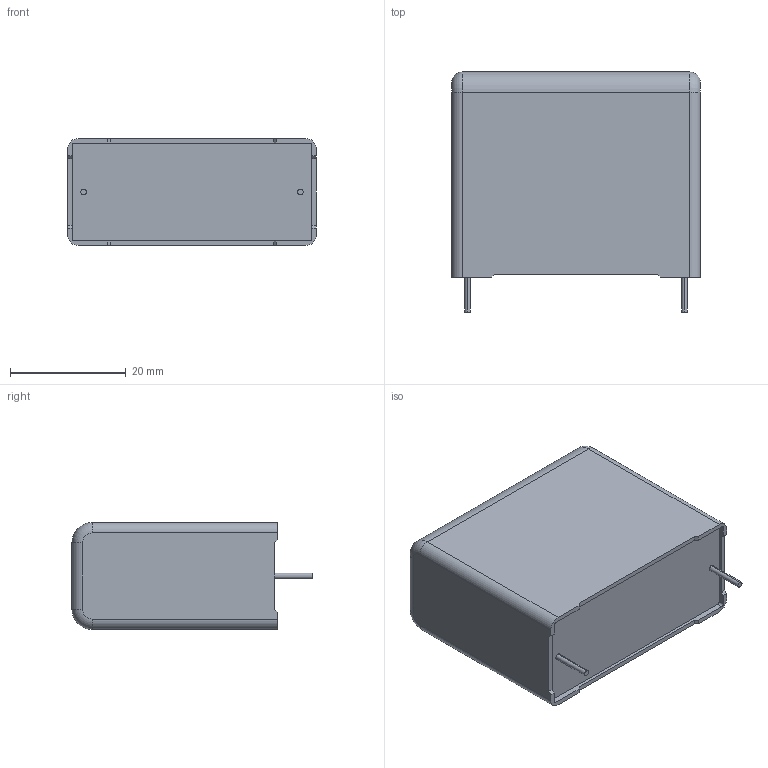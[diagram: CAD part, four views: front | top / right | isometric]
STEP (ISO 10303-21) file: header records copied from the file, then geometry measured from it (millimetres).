
FILE_DESCRIPTION (( 'STEP AP203' ), '1' );
FILE_NAME ('DC_Link_18.5x35.5x43_2pins.step', '2017-04-03T15:59:45', ( 'work' ), ( 'Hewlett-Packard Company' ), 'SwSTEP 2.0', 'SolidWorks 2017', '' );
FILE_SCHEMA (( 'CONFIG_CONTROL_DESIGN' ));
Length unit declared in the file: millimetre
Products named in the file (1): DC_Link_18.5x35.5x43_2pins
Bounding box: 43 x 41.5 x 18.5 mm (x, y, z)
Volume: 27174.5 mm3; surface area: 5759.9 mm2
Topology: 1 solids, 1 shells, 116 faces, 307 edges, 202 vertices
Faces by surface type: plane 80, cylinder 16, bspline 16, torus 4
Entity records: 4332 total; most frequent: CARTESIAN_POINT 1450, ORIENTED_EDGE 614, DIRECTION 513, EDGE_CURVE 307, VECTOR 239, LINE 239, VERTEX_POINT 202, AXIS2_PLACEMENT_3D 137
